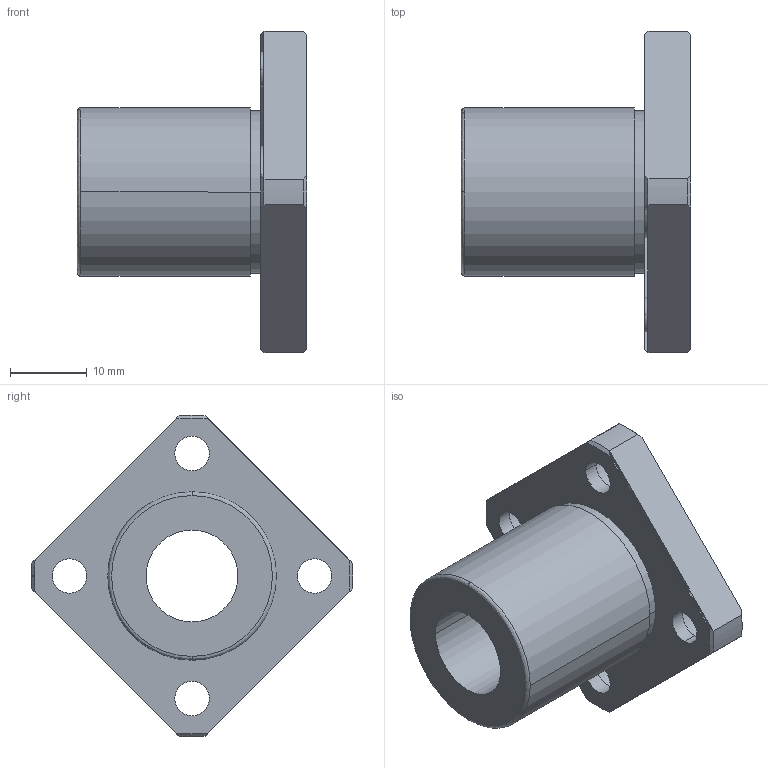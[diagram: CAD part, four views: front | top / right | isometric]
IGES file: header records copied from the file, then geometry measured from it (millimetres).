
Start section: 3D InterOp IGES (Version 21 0 1), Spatial Corp. Copyright (c) 1999-2007.
Global section: file name: NF-12VUU.igs; native system: Spatial Corp.; preprocessor: 3D InterOp GENERIC/IGES 3.0; author: Noname; organization: Noname; date: 20220308.154249; units: millimetre
Bounding box: 30 x 41.99 x 41.98 mm (x, y, z)
Surface area: 5713.6 mm2 (no closed solid volume)
Topology: 0 solids, 0 shells, 51 faces, 256 edges, 256 vertices
Faces by surface type: revolution 39, extrusion 12
